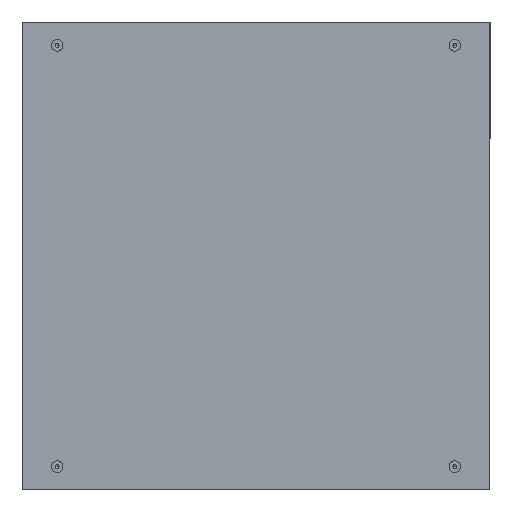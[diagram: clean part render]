
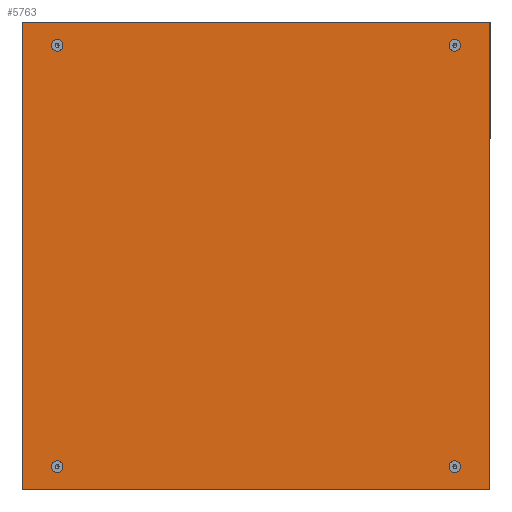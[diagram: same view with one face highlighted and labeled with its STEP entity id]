
A CAD part, left-side view. The second image highlights one B-rep face of the part: STEP entity #5763.
In plain terms, the highlighted planar face has unit normal (-1, 0, 0).
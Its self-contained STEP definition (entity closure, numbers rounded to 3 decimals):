
#471=CIRCLE('',#7638,5.125);
#473=CIRCLE('',#7641,5.125);
#475=CIRCLE('',#7644,5.125);
#476=CIRCLE('',#7673,5.125);
#1659=ORIENTED_EDGE('',*,*,#2655,.T.);
#1660=ORIENTED_EDGE('',*,*,#2656,.T.);
#1661=ORIENTED_EDGE('',*,*,#2657,.T.);
#1662=ORIENTED_EDGE('',*,*,#2658,.T.);
#1663=ORIENTED_EDGE('',*,*,#2553,.F.);
#1664=ORIENTED_EDGE('',*,*,#2555,.F.);
#1665=ORIENTED_EDGE('',*,*,#2557,.F.);
#1666=ORIENTED_EDGE('',*,*,#2659,.F.);
#2553=EDGE_CURVE('',#3155,#3155,#471,.T.);
#2555=EDGE_CURVE('',#3157,#3157,#473,.T.);
#2557=EDGE_CURVE('',#3159,#3159,#475,.T.);
#2655=EDGE_CURVE('',#3234,#3235,#3784,.T.);
#2656=EDGE_CURVE('',#3235,#3236,#3785,.T.);
#2657=EDGE_CURVE('',#3236,#3237,#3786,.T.);
#2658=EDGE_CURVE('',#3237,#3234,#3787,.T.);
#2659=EDGE_CURVE('',#3238,#3238,#476,.T.);
#3155=VERTEX_POINT('',#10604);
#3157=VERTEX_POINT('',#10609);
#3159=VERTEX_POINT('',#10614);
#3234=VERTEX_POINT('',#10815);
#3235=VERTEX_POINT('',#10816);
#3236=VERTEX_POINT('',#10818);
#3237=VERTEX_POINT('',#10820);
#3238=VERTEX_POINT('',#10823);
#3784=LINE('',#10814,#4336);
#3785=LINE('',#10817,#4337);
#3786=LINE('',#10819,#4338);
#3787=LINE('',#10821,#4339);
#4336=VECTOR('',#9089,1000.);
#4337=VECTOR('',#9090,1000.);
#4338=VECTOR('',#9091,1000.);
#4339=VECTOR('',#9092,1000.);
#4742=EDGE_LOOP('',(#1659,#1660,#1661,#1662));
#4743=EDGE_LOOP('',(#1663));
#4744=EDGE_LOOP('',(#1664));
#4745=EDGE_LOOP('',(#1665));
#4746=EDGE_LOOP('',(#1666));
#5164=FACE_BOUND('',#4742,.T.);
#5165=FACE_BOUND('',#4743,.T.);
#5166=FACE_BOUND('',#4744,.T.);
#5167=FACE_BOUND('',#4745,.T.);
#5168=FACE_BOUND('',#4746,.T.);
#5458=PLANE('',#7672);
#5763=ADVANCED_FACE('',(#5164,#5165,#5166,#5167,#5168),#5458,.T.);
#7638=AXIS2_PLACEMENT_3D('',#10603,#8922,#8923);
#7641=AXIS2_PLACEMENT_3D('',#10608,#8928,#8929);
#7644=AXIS2_PLACEMENT_3D('',#10613,#8934,#8935);
#7672=AXIS2_PLACEMENT_3D('',#10813,#9087,#9088);
#7673=AXIS2_PLACEMENT_3D('',#10822,#9093,#9094);
#8922=DIRECTION('',(-1.,0.,0.));
#8923=DIRECTION('',(0.,-1.,0.));
#8928=DIRECTION('',(-1.,0.,0.));
#8929=DIRECTION('',(0.,-1.,0.));
#8934=DIRECTION('',(-1.,0.,0.));
#8935=DIRECTION('',(0.,-1.,0.));
#9087=DIRECTION('',(-1.,0.,0.));
#9088=DIRECTION('',(0.,-1.,0.));
#9089=DIRECTION('',(0.,1.,0.));
#9090=DIRECTION('',(0.,0.,-1.));
#9091=DIRECTION('',(0.,-1.,0.));
#9092=DIRECTION('',(0.,0.,1.));
#9093=DIRECTION('',(-1.,0.,0.));
#9094=DIRECTION('',(0.,-1.,0.));
#10603=CARTESIAN_POINT('',(-1.2,255.,-270.));
#10604=CARTESIAN_POINT('',(-1.2,249.875,-270.));
#10608=CARTESIAN_POINT('',(-1.2,255.,270.));
#10609=CARTESIAN_POINT('',(-1.2,249.875,270.));
#10613=CARTESIAN_POINT('',(-1.2,-255.,-270.));
#10614=CARTESIAN_POINT('',(-1.2,-260.125,-270.));
#10813=CARTESIAN_POINT('',(-1.2,0.,0.));
#10814=CARTESIAN_POINT('',(-1.2,0.,300.));
#10815=CARTESIAN_POINT('',(-1.2,-300.,300.));
#10816=CARTESIAN_POINT('',(-1.2,300.,300.));
#10817=CARTESIAN_POINT('',(-1.2,300.,0.));
#10818=CARTESIAN_POINT('',(-1.2,300.,-300.));
#10819=CARTESIAN_POINT('',(-1.2,0.,-300.));
#10820=CARTESIAN_POINT('',(-1.2,-300.,-300.));
#10821=CARTESIAN_POINT('',(-1.2,-300.,0.));
#10822=CARTESIAN_POINT('',(-1.2,-255.,270.));
#10823=CARTESIAN_POINT('',(-1.2,-260.125,270.));
